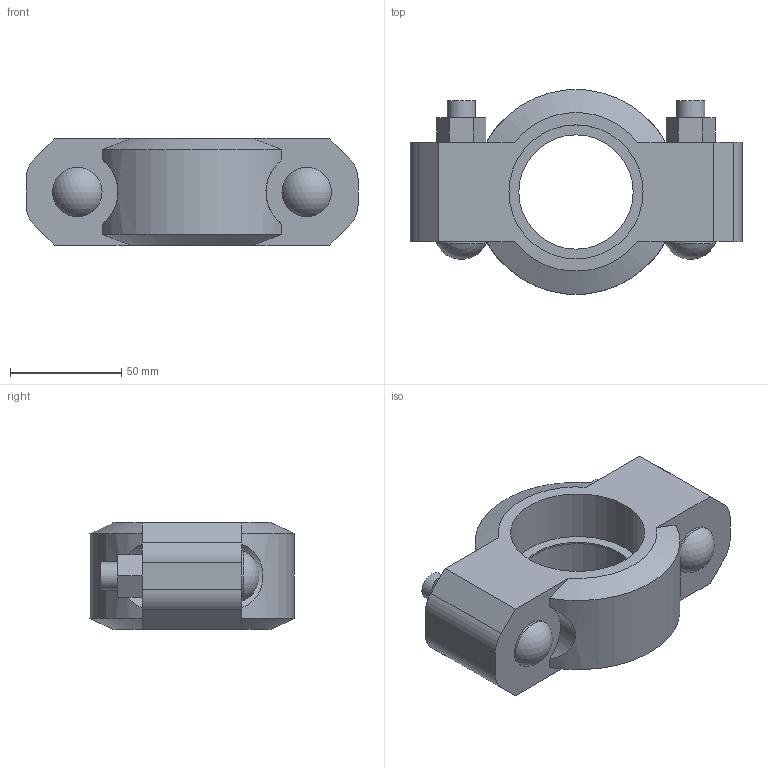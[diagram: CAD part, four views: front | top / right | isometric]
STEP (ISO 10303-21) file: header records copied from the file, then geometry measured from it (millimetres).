
FILE_DESCRIPTION(/* description */ ('Victaulic Standard Flexible Coupling Style 77','CAx-IF Rec.Pracs.---Representation and Presentation of Product Manufacturing Information (PMI)---4.0---2014-10-13'),/* implementation_level */ '2;1');
FILE_NAME(/* name */ 'C:\Users\Vjadhav\Desktop\CAD for Inventor\1\Coupling bolt thickness\77\Victaulic_IPS_Coupling Flexible_Style 77 (OGS)\Victaulic_IPS_Coupling Flexible_Style 77 (OGS)_2 (50).stp',/* time_stamp */ '2022-03-24T18:19:54+06:00',/* author */ ('CONSTRUCTION PIPING SERVICES'),/* organization */ ('Victaulic'),/* preprocessor_version */ 'ST-DEVELOPER v17.2',/* originating_system */ 'Autodesk Inventor 2019',/* authorisation */ '');
FILE_SCHEMA (('AP242_MANAGED_MODEL_BASED_3D_ENGINEERING_MIM_LF { 1 0 10303 442 1 1 4 }'));
Length unit declared in the file: inch
Products named in the file (1): 077-02.0
Bounding box: 149.35 x 91.89 x 47.75 mm (x, y, z)
Volume: 295800.3 mm3; surface area: 51275.1 mm2
Topology: 1 solids, 3 shells, 61 faces, 142 edges, 95 vertices
Faces by surface type: plane 34, cylinder 21, cone 4, sphere 2
Full cylindrical faces by diameter (mm): 12.7 x4, 14.605 x2, 22.225 x2, 51.435 x1, 60.325 x2
Entity records: 2075 total; most frequent: CARTESIAN_POINT 448, DIRECTION 323, ORIENTED_EDGE 284, EDGE_CURVE 142, AXIS2_PLACEMENT_3D 118, VERTEX_POINT 95, LINE 87, VECTOR 87
